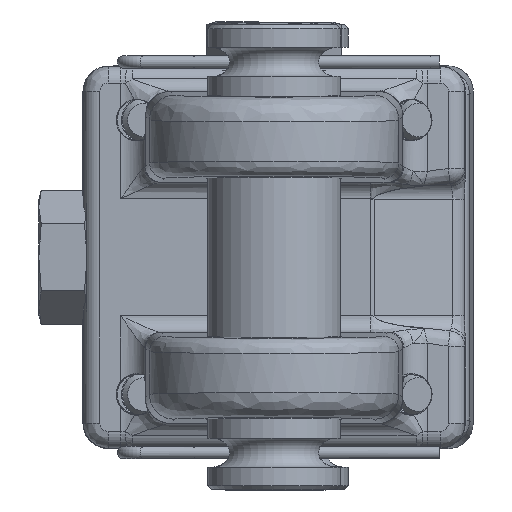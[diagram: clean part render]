
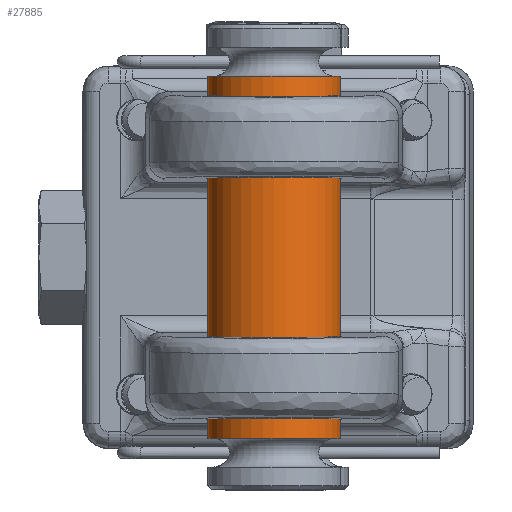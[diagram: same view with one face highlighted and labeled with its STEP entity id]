
A CAD part, left-side view. The second image highlights one B-rep face of the part: STEP entity #27885.
In plain terms, the highlighted cylindrical face has radius 12.7 mm (diameter 25.4 mm), a full revolution.
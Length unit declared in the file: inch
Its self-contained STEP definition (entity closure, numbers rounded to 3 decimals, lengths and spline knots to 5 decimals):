
#27781=CARTESIAN_POINT('',(-1.35975,0.5,0.));
#27782=VERTEX_POINT('',#27781);
#27783=CARTESIAN_POINT('',(-1.35975,0.0,0.0));
#27784=DIRECTION('',(1.0,0.0,0.0));
#27785=DIRECTION('',(0.0,-1.0,0.0));
#27786=AXIS2_PLACEMENT_3D('',#27783,#27784,#27785);
#27787=CIRCLE('',#27786,0.5);
#27788=EDGE_CURVE('',#27782,#27782,#27787,.T.);
#27813=CARTESIAN_POINT('',(1.35975,0.5,0.));
#27814=VERTEX_POINT('',#27813);
#27815=CARTESIAN_POINT('',(1.35975,0.0,0.0));
#27816=DIRECTION('',(-1.0,0.0,0.0));
#27817=DIRECTION('',(0.0,-1.0,0.0));
#27818=AXIS2_PLACEMENT_3D('',#27815,#27816,#27817);
#27819=CIRCLE('',#27818,0.5);
#27820=EDGE_CURVE('',#27814,#27814,#27819,.T.);
#27874=CARTESIAN_POINT('',(0.0,0.0,0.0));
#27875=DIRECTION('',(1.0,0.0,0.0));
#27876=DIRECTION('',(0.0,-1.0,0.0));
#27877=AXIS2_PLACEMENT_3D('',#27874,#27875,#27876);
#27878=CYLINDRICAL_SURFACE('',#27877,0.5);
#27879=ORIENTED_EDGE('',*,*,#27788,.T.);
#27880=EDGE_LOOP('',(#27879));
#27881=FACE_OUTER_BOUND('',#27880,.T.);
#27882=ORIENTED_EDGE('',*,*,#27820,.T.);
#27883=EDGE_LOOP('',(#27882));
#27884=FACE_BOUND('',#27883,.T.);
#27885=ADVANCED_FACE('',(#27881,#27884),#27878,.T.);
